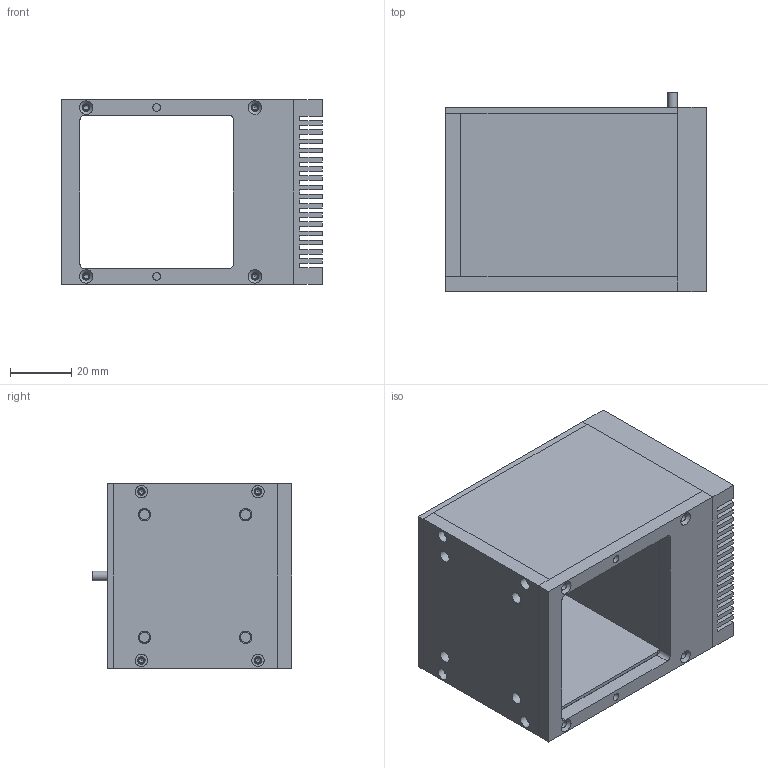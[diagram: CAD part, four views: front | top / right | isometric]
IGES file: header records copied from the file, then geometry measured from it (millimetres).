
Global section: file name: 153-00831_LK 46 R-24-KFL5-65; native system: Autodesk Inventor 2018; preprocessor: unknown; author: ss; date: 20180726.104044; units: millimetre
Bounding box: 85 x 65 x 60 mm (x, y, z)
Volume: 133510.4 mm3; surface area: 52508.8 mm2
Topology: 1 solids, 1 shells, 271 faces, 754 edges, 534 vertices
Faces by surface type: bspline 271
